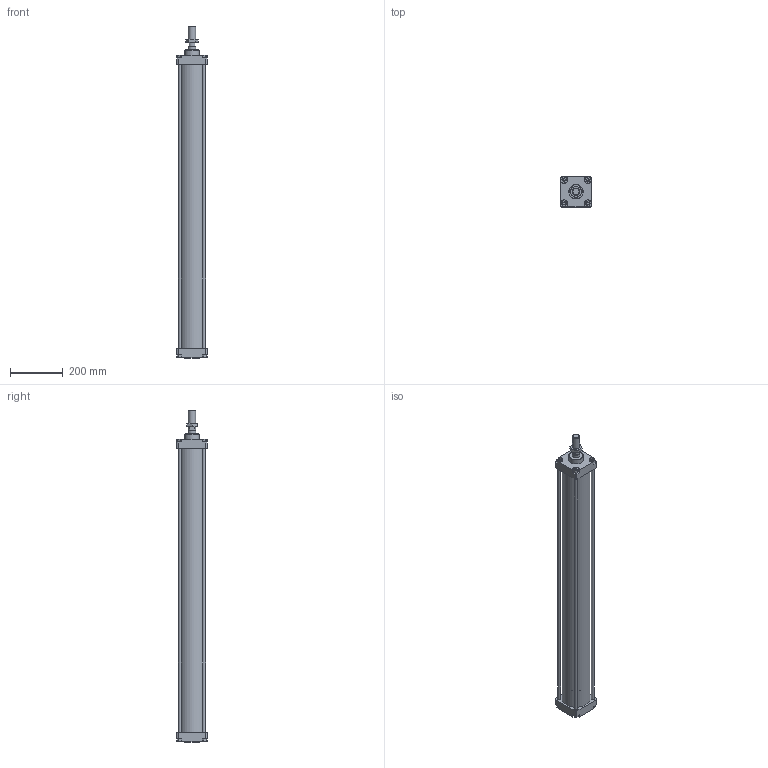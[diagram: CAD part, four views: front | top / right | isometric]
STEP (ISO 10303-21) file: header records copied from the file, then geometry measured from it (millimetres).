
FILE_DESCRIPTION(/* description */ (''),/* implementation_level */ '2;1');
FILE_NAME(/* name */ 'I:\Area Tecnica\Disegni\VARIE-3D\Componenti\CSP\Ø100\130#_100_####_###\1303_100_1000_01A.stp',/* time_stamp */ '2016-11-24T14:06:02+01:00',/* author */ ('Maniean1'),/* organization */ ('Pneumax S.p.A.'),/* preprocessor_version */ 'ST-DEVELOPER v15.2',/* originating_system */ 'Autodesk Inventor 2014',/* authorisation */ '');
FILE_SCHEMA (('AUTOMOTIVE_DESIGN { 1 0 10303 214 3 1 1 }'));
Length unit declared in the file: millimetre
Products named in the file (6): C_130#_100_1000; Testata anteriore_100; Testata posteriore_100; S_1303_100_1000_01A; 1300_100_18F; 1303_100_1000_01A
Bounding box: 115 x 115 x 1257 mm (x, y, z)
Volume: 3626631.5 mm3; surface area: 1095984.4 mm2
Topology: 9 solids, 9 shells, 162 faces, 380 edges, 249 vertices
Faces by surface type: plane 105, cylinder 42, cone 15
Full cylindrical faces by diameter (mm): 10 x12, 19 x2, 21.8 x1, 24.835 x1, 27 x1, 28 x1, 30 x3, 55 x2, 100 x2, 106 x1
Entity records: 4530 total; most frequent: CARTESIAN_POINT 785, DIRECTION 764, ORIENTED_EDGE 672, EDGE_CURVE 336, AXIS2_PLACEMENT_3D 271, VERTEX_POINT 244, EDGE_LOOP 236, LINE 222
